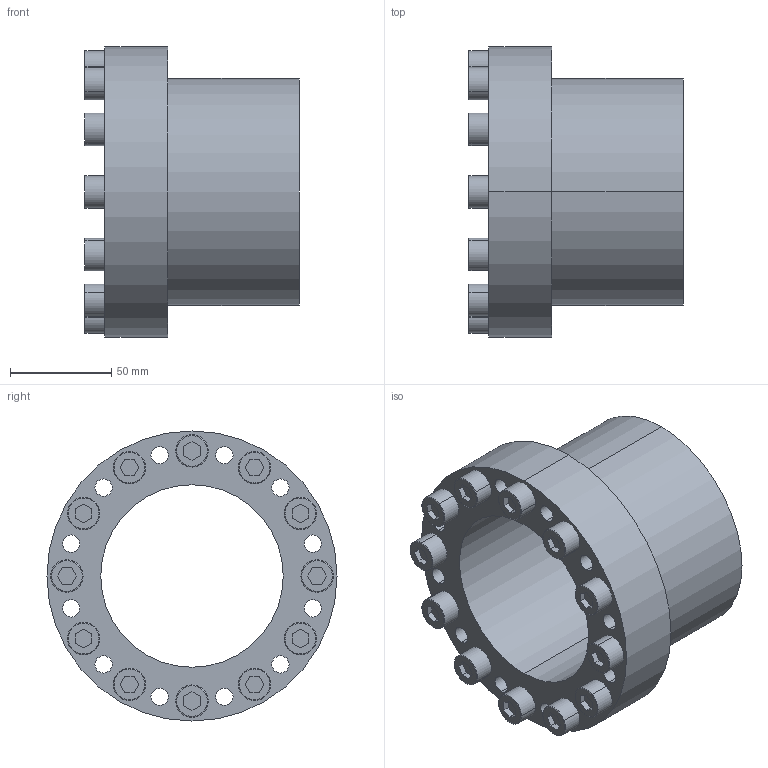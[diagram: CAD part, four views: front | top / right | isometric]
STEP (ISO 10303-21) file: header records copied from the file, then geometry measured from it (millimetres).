
FILE_DESCRIPTION (( 'STEP AP203' ), '1' );
FILE_NAME ('SB-90.STEP', '2009-09-29T15:52:07', ( 'USER' ), ( 'HOME' ), 'SwSTEP 2.0', 'SolidWorks 2007', '' );
FILE_SCHEMA (( 'CONFIG_CONTROL_DESIGN' ));
Length unit declared in the file: millimetre
Products named in the file (1): SB-90
Bounding box: 106 x 143 x 143 mm (x, y, z)
Volume: 531930 mm3; surface area: 122046.2 mm2
Topology: 13 solids, 13 shells, 249 faces, 570 edges, 372 vertices
Faces by surface type: plane 123, cylinder 102, cone 24
Entity records: 7213 total; most frequent: DIRECTION 1298, CARTESIAN_POINT 1192, ORIENTED_EDGE 1140, EDGE_CURVE 570, AXIS2_PLACEMENT_3D 478, VERTEX_POINT 372, VECTOR 342, LINE 342
